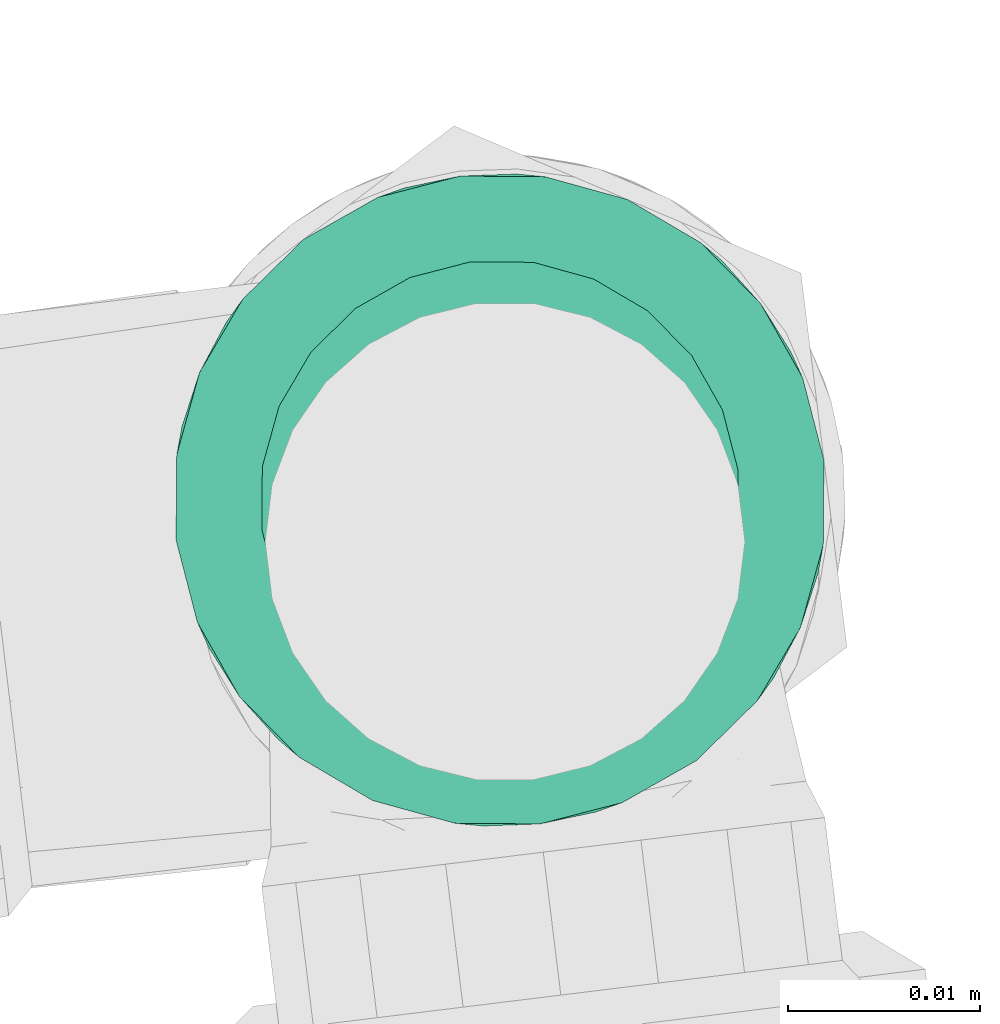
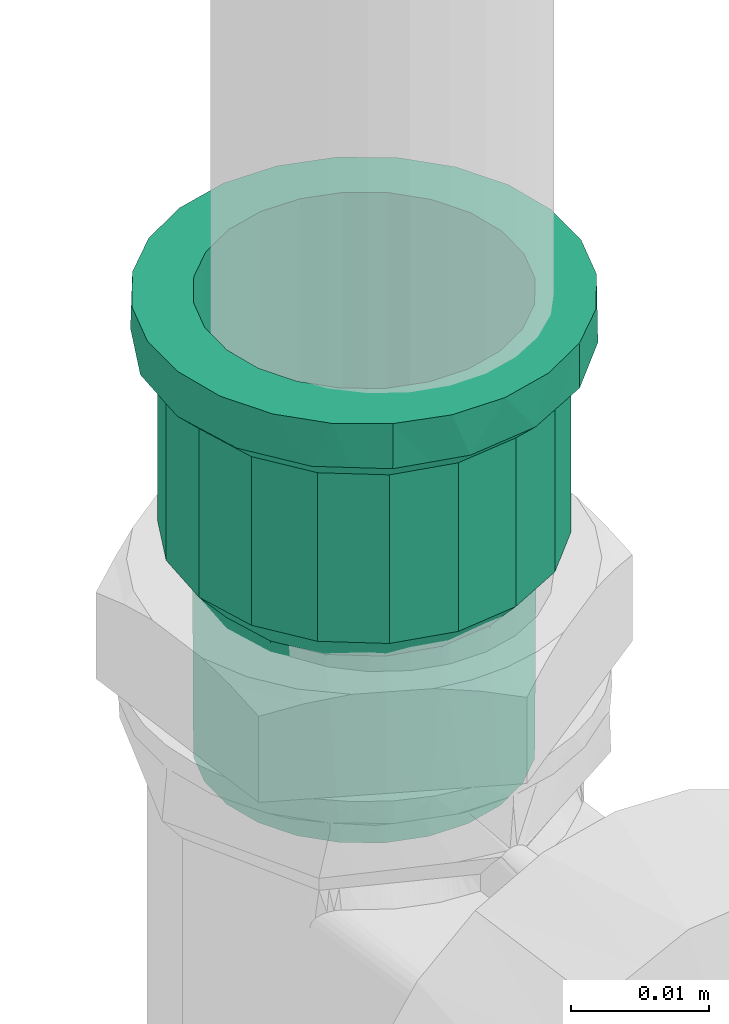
# One storey, part 77 of 97: 1 flow fitting.
"""IFC2X3 building model written with IfcOpenShell, lengths in centimetres."""

from ifc_helpers import new_model, entity, si_unit, converted_unit, derived_unit, direction, frame, origin, place, context, subcontext, project, spatial, faceted_brep, source, transform, mapped, material, type_object, type_shapes, element, save


model = new_model("IFC2X3")

# Units and contexts
model_context = context("Model", 3, precision=0.001, world=origin(), true_north=direction((6.12303176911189e-17, 1.0)))
body_context = subcontext(model_context, "Body", "Model", "MODEL_VIEW")
ifc_project = project(units=[si_unit("LENGTHUNIT", "METRE", prefix="CENTI"), si_unit("AREAUNIT", "SQUARE_METRE"), si_unit("VOLUMEUNIT", "CUBIC_METRE"), converted_unit("PLANEANGLEUNIT", "DEGREE", entity("IfcRatioMeasure", 0.0174532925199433), si_unit("PLANEANGLEUNIT", "RADIAN"), dimensions=[0, 0, 0, 0, 0, 0, 0]), si_unit("MASSUNIT", "GRAM", prefix="KILO"), derived_unit("MASSDENSITYUNIT", [(si_unit("MASSUNIT", "GRAM", prefix="KILO"), 1), (si_unit("LENGTHUNIT", "METRE"), -3)]), derived_unit("MOMENTOFINERTIAUNIT", [(si_unit("LENGTHUNIT", "METRE"), 4)]), si_unit("TIMEUNIT", "SECOND"), si_unit("FREQUENCYUNIT", "HERTZ"), si_unit("THERMODYNAMICTEMPERATUREUNIT", "DEGREE_CELSIUS"), derived_unit("THERMALTRANSMITTANCEUNIT", [(si_unit("MASSUNIT", "GRAM", prefix="KILO"), 1), (si_unit("THERMODYNAMICTEMPERATUREUNIT", "KELVIN"), -1), (si_unit("TIMEUNIT", "SECOND"), -3)]), derived_unit("VOLUMETRICFLOWRATEUNIT", [(si_unit("LENGTHUNIT", "METRE"), 3), (si_unit("TIMEUNIT", "SECOND"), -1)]), si_unit("ELECTRICCURRENTUNIT", "AMPERE"), si_unit("ELECTRICVOLTAGEUNIT", "VOLT"), si_unit("POWERUNIT", "WATT"), si_unit("FORCEUNIT", "NEWTON", prefix="KILO"), si_unit("ILLUMINANCEUNIT", "LUX"), si_unit("LUMINOUSFLUXUNIT", "LUMEN"), si_unit("LUMINOUSINTENSITYUNIT", "CANDELA"), derived_unit("USERDEFINED", [(si_unit("MASSUNIT", "GRAM", prefix="KILO"), -1), (si_unit("LENGTHUNIT", "METRE"), -2), (si_unit("TIMEUNIT", "SECOND"), 3), (si_unit("LUMINOUSFLUXUNIT", "LUMEN"), 1)]), derived_unit("LINEARVELOCITYUNIT", [(si_unit("LENGTHUNIT", "METRE"), 1), (si_unit("TIMEUNIT", "SECOND"), -1)]), si_unit("PRESSUREUNIT", "PASCAL"), derived_unit("USERDEFINED", [(si_unit("LENGTHUNIT", "METRE"), -2), (si_unit("MASSUNIT", "GRAM", prefix="KILO"), 1), (si_unit("TIMEUNIT", "SECOND"), -2)]), derived_unit("LINEARFORCEUNIT", [(si_unit("MASSUNIT", "GRAM", prefix="KILO"), 1), (si_unit("LENGTHUNIT", "METRE"), 1), (si_unit("TIMEUNIT", "SECOND"), -2), (si_unit("LENGTHUNIT", "METRE"), -1)]), derived_unit("PLANARFORCEUNIT", [(si_unit("MASSUNIT", "GRAM", prefix="KILO"), 1), (si_unit("LENGTHUNIT", "METRE"), 1), (si_unit("TIMEUNIT", "SECOND"), -2), (si_unit("LENGTHUNIT", "METRE"), -2)])], contexts=[model_context])

# Site, building, storey
site_placement = place(None, origin())
site = spatial("IfcSite", under=ifc_project, at=site_placement, Name="Default", CompositionType="ELEMENT")
building_placement = place(site_placement, origin())
building = spatial("IfcBuilding", under=site, at=building_placement, Name="HIDROSSANITÁRIO", CompositionType="ELEMENT")
storey_placement = place(building_placement, frame((0.0, 0.0, -260.0)))
storey = spatial("IfcBuildingStorey", under=building, at=storey_placement, Name="TÉRREO-HID", CompositionType="ELEMENT", Elevation=-260.0)

# Flow fitting
ifc_material = material(Name="PVC Marrom")
pipe_fitting_type = type_object("IfcPipeFittingType", Name="PVC Marrom Soldável_Adaptador Curto com Bolsa e Rosca Aninhado:Adaptador", PredefinedType="NOTDEFINED", material=ifc_material)
shared_shape = source(origin(), body_context, "Body", "Brep", [
    faceted_brep([(0.0, -0.850000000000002, -1.47224318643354), (0.0, -1.20208152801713, -1.20208152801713), (0.0, -0.624999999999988, -1.08253175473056), (0.0, -0.323523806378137, -1.20740728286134), (0.0, -0.439992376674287, -1.64207390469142), (0.0, -0.883883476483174, -0.883883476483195), (0.0, -1.47224318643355, -0.849999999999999), (0.0, -1.08253175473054, -0.625000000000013), (0.0, -1.20740728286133, -0.323523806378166), (0.0, -1.64207390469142, -0.439992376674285), (0.0, -1.25, 0.0), (0.0, -1.7, 0.0), (0.0, -1.20740728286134, 0.323523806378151), (0.0, -1.64207390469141, 0.439992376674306), (0.0, -1.08253175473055, 0.625), (0.0, -1.47224318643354, 0.850000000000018), (0.0, -0.883883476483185, 0.883883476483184), (0.0, -1.20208152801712, 1.20208152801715), (0.0, -0.625000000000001, 1.08253175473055), (0.0, -0.849999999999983, 1.47224318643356), (0.0, -0.323523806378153, 1.20740728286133), (0.0, -0.439992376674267, 1.64207390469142), (0.0, 0.0, 1.25), (0.0, 0.0, 1.7), (0.0, 0.323523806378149, 1.20740728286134), (0.0, 0.439992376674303, 1.64207390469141), (0.0, 0.624999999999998, 1.08253175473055), (0.0, 0.850000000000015, 1.47224318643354), (0.0, 0.883883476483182, 0.883883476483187), (0.0, 1.20208152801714, 1.20208152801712), (0.0, 1.08253175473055, 0.625000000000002), (0.0, 1.47224318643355, 0.849999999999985), (0.0, 1.64207390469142, 0.439992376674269), (0.0, 1.20740728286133, 0.323523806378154), (0.0, 1.7, 0.0), (0.0, 1.25, 0.0), (0.0, 1.64207390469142, -0.43999237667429), (0.0, 1.20740728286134, -0.323523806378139), (0.0, 1.47224318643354, -0.850000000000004), (0.0, 1.08253175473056, -0.624999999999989), (0.0, 1.20208152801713, -1.20208152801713), (0.0, 0.883883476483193, -0.883883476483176), (0.0, 0.849999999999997, -1.47224318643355), (0.0, 0.625000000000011, -1.08253175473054), (0.0, 0.439992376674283, -1.64207390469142), (0.0, 0.323523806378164, -1.20740728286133), (0.0, 0.0, -1.7), (0.0, 0.0, -1.25), (0.399999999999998, 1.59746124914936, 0.581478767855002), (0.399999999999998, 1.64873062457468, 0.290739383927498), (0.399999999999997, 1.07604576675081, 1.28256289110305), (0.399999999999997, 1.30221463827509, 1.09281152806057), (0.399999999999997, 1.44983794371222, 0.837145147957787), (0.399999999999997, 0.57244607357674, 1.57326016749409), (0.399999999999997, 0.295015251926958, 1.67420608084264), (0.399999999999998, 1.659968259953, 0.227012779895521), (0.399999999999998, 1.7, 0.0), (0.399999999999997, 0.849876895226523, 1.47231425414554), (0.399999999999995, -0.850246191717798, 1.47210102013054), (0.399999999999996, -0.572840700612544, 1.57311652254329), (0.399999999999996, -0.295435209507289, 1.67413202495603), (0.399999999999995, -1.30248872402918, 1.09248483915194), (0.399999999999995, -1.07636745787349, 1.28229292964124), (0.399999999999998, -1.7, 0.0), (0.399999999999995, -1.5976070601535, 0.581078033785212), (0.399999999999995, -1.45004789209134, 0.836781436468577), (0.399999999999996, -0.000209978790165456, 1.67416905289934), (0.400000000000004, -1.59760706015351, -0.581078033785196), (0.400000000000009, -1.0763674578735, -1.28229292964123), (0.400000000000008, -1.30248872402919, -1.09248483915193), (0.400000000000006, -1.45004789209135, -0.836781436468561), (0.40000000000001, -0.572840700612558, -1.57311652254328), (0.400000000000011, -0.295435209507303, -1.67413202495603), (0.40000000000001, -0.850246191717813, -1.47210102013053), (0.4, 1.64873062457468, -0.290739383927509), (0.400000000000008, 0.849876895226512, -1.47231425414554), (0.400000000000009, 0.572446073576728, -1.57326016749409), (0.40000000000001, 0.295015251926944, -1.67420608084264), (0.400000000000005, 1.30221463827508, -1.09281152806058), (0.400000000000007, 1.0760457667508, -1.28256289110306), (0.400000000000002, 1.59746124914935, -0.581478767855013), (0.400000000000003, 1.44983794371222, -0.837145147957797), (0.40000000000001, -0.000209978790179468, -1.67416905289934), (0.399999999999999, 1.65996825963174, -0.227012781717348), (2.085, 1.45359735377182, 0.29149513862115), (2.085, 1.45961152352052, 0.257389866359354), (2.085, 1.505, 0.0), (0.590000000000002, 1.505, 0.0), (0.590000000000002, 1.45961152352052, 0.257389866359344), (0.590000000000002, 1.41422304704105, 0.514779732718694), (2.085, 1.41422304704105, 0.514779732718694), (2.08499999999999, 0.952616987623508, 1.13544538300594), (2.08499999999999, 1.15284295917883, 0.967459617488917), (0.590000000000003, 1.15284295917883, 0.967459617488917), (0.590000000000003, 0.952616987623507, 1.13544538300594), (0.590000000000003, 0.752391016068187, 1.30343114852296), (2.08499999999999, 0.752391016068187, 1.30343114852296), (2.085, 1.28353300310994, 0.741119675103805), (0.590000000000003, 1.28353300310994, 0.741119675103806), (2.08499999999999, 0.261175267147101, 1.48216479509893), (2.08499999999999, 0.506783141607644, 1.39279797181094), (0.590000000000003, 0.506783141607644, 1.39279797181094), (0.590000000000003, 0.261175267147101, 1.48216479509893), (2.08499999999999, -0.261547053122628, 1.48209923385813), (2.08499999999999, -0.000185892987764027, 1.48213201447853), (0.590000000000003, -0.000185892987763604, 1.48213201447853), (0.590000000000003, -0.261547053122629, 1.48209923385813), (2.08499999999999, -0.507132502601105, 1.39267080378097), (0.590000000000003, -0.507132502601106, 1.39267080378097), (0.590000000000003, -0.752717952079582, 1.3032423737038), (2.08499999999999, -0.75271795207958, 1.3032423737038), (0.590000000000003, -0.952901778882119, 1.1352063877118), (0.590000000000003, -1.15308560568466, 0.967170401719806), (2.08499999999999, -1.15308560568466, 0.967170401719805), (2.08499999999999, -0.952901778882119, 1.1352063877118), (2.085, -1.28371886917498, 0.740797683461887), (0.590000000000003, -1.28371886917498, 0.740797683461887), (0.590000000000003, -1.4143521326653, 0.514424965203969), (2.085, -1.4143521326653, 0.514424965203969), (0.590000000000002, -1.505, 0.0), (2.085, -1.505, 0.0), (2.08500000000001, -1.41435213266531, -0.514424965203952), (0.590000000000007, -1.41435213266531, -0.514424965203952), (2.08500000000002, -0.752717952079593, -1.3032423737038), (2.08500000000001, -0.95290177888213, -1.13520638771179), (2.08500000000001, -1.15308560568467, -0.967170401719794), (0.59000000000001, -1.15308560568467, -0.967170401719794), (0.590000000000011, -0.95290177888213, -1.13520638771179), (0.590000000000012, -0.752717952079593, -1.3032423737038), (0.590000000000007, 1.28353300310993, -0.741119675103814), (0.590000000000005, 1.41422304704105, -0.514779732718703), (2.08500000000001, 1.41422304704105, -0.514779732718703), (2.08500000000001, 1.28353300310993, -0.741119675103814), (2.08500000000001, 1.15284295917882, -0.967459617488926), (0.590000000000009, 1.15284295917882, -0.967459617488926), (0.590000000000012, 0.506783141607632, -1.39279797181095), (0.590000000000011, 0.752391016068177, -1.30343114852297), (2.08500000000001, 0.752391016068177, -1.30343114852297), (2.08500000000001, 0.506783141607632, -1.39279797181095), (2.08500000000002, 0.261175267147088, -1.48216479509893), (0.590000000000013, 0.261175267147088, -1.48216479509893), (2.08500000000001, -1.28371886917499, -0.740797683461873), (0.590000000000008, -1.28371886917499, -0.740797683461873), (2.08500000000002, -0.261547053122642, -1.48209923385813), (2.08500000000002, -0.507132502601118, -1.39267080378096), (0.590000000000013, -0.507132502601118, -1.39267080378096), (0.590000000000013, -0.261547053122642, -1.48209923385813), (0.590000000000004, 1.45961152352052, -0.257389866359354), (2.085, 1.46677519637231, -0.216765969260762), (2.085, 1.45359734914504, -0.291495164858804), (0.59000000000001, 0.952616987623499, -1.13544538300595), (2.08500000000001, 0.952616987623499, -1.13544538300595), (2.08500000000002, -0.000185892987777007, -1.48213201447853), (0.590000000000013, -0.000185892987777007, -1.48213201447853), (4.03, 0.0, -1.25), (4.03, 0.323523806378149, -1.20740728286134), (4.03, 0.624999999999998, -1.08253175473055), (4.03, 0.883883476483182, -0.883883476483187), (4.03, 1.08253175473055, -0.625000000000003), (4.03, 1.20740728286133, -0.323523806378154), (4.03, 1.25, 0.0), (4.03, 1.20740728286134, 0.323523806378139), (4.03, 1.08253175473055, 0.624999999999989), (4.03, 0.883883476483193, 0.883883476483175), (4.03, 0.625000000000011, 1.08253175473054), (4.03, 0.323523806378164, 1.20740728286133), (4.03, 0.0, 1.25), (4.03, -0.323523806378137, 1.20740728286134), (4.03, -0.624999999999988, 1.08253175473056), (4.03, -0.883883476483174, 0.883883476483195), (4.03, -1.08253175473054, 0.625000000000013), (4.03, -1.20740728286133, 0.323523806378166), (4.03, -1.25, 0.0), (4.03, -1.20740728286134, -0.323523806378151), (4.03, -1.08253175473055, -0.624999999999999), (4.03, -0.883883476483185, -0.883883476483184), (4.03, -0.625000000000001, -1.08253175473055), (4.03, -0.323523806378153, -1.20740728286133), (2.375, 1.25, 0.0), (2.37499999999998, 0.957510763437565, 0.803537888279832), (2.37499999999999, 1.17460385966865, 0.427557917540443), (2.37499999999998, 0.624909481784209, 1.08258401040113), (2.37499999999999, 1.06605731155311, 0.615547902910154), (2.375, 1.21825182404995, 0.180038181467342), (2.37499999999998, 0.420916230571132, 1.15680894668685), (2.37499999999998, 0.216922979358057, 1.23103388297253), (2.37499999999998, 0.791210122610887, 0.943060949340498), (2.37499999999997, -0.217231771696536, 1.23097943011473), (2.37499999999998, -0.625181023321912, 1.08242722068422), (2.37499999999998, -0.957712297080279, 0.803297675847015), (2.37499999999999, -1.17471107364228, 0.427263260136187), (2.37499999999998, -0.791446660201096, 0.94286244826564), (2.37499999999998, -0.421206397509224, 1.1567033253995), (2.375, -1.25, 0.0), (2.37499999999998, -1.06621168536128, 0.615280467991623), (2.37499999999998, -0.000154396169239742, 1.23100665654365), (2.37500000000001, -0.957712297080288, -0.803297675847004), (2.375, -1.17471107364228, -0.427263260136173), (2.37500000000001, -0.625181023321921, -1.08242722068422), (2.37500000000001, -1.06621168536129, -0.615280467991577), (2.37500000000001, -0.421206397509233, -1.15670332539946), (2.37500000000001, -0.217231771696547, -1.23097943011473), (2.37500000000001, -0.791446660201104, -0.942862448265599), (2.37500000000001, 0.216922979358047, -1.23103388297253), (2.37500000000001, 0.6249094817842, -1.08258401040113), (2.375, 0.957510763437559, -0.803537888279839), (2.375, 1.17460385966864, -0.427557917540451), (2.37500000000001, 0.79121012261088, -0.943060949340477), (2.37500000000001, 0.420916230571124, -1.15680894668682), (2.375, 1.21230192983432, -0.213778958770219), (2.375, 1.0660573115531, -0.615547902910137), (2.37500000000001, -0.00015439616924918, -1.23100665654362), (0.590000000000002, 1.20740728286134, -0.323523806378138), (2.085, 1.20740728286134, -0.323523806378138), (2.085, 1.25, 0.0), (0.590000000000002, 1.25, 0.0), (0.399999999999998, 1.25, 0.0), (0.399999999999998, 1.20740728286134, -0.323523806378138), (0.590000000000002, 1.08253175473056, -0.624999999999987), (2.085, 1.08253175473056, -0.624999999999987), (0.399999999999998, 1.08253175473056, -0.624999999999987), (2.085, 0.625000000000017, -1.08253175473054), (2.085, 0.883883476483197, -0.883883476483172), (0.590000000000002, 0.883883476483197, -0.883883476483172), (0.399999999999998, 0.883883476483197, -0.883883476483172), (0.399999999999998, 0.625000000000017, -1.08253175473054), (0.590000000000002, 0.625000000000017, -1.08253175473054), (2.085, 0.32352380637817, -1.20740728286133), (0.399999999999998, 0.32352380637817, -1.20740728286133), (0.590000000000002, 0.32352380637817, -1.20740728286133), (2.085, 0.0, -1.25), (0.399999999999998, 0.0, -1.25), (0.590000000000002, 0.0, -1.25), (0.590000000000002, -0.323523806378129, -1.20740728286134), (2.085, -0.323523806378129, -1.20740728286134), (0.399999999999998, -0.323523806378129, -1.20740728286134), (0.590000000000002, -0.624999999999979, -1.08253175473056), (2.085, -0.624999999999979, -1.08253175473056), (0.399999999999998, -0.624999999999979, -1.08253175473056), (2.085, -1.08253175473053, -0.625000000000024), (2.085, -0.883883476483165, -0.883883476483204), (0.590000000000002, -0.883883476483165, -0.883883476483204), (0.399999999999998, -0.883883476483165, -0.883883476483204), (0.399999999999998, -1.08253175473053, -0.625000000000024), (0.590000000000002, -1.08253175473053, -0.625000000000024), (2.085, -1.20740728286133, -0.323523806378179), (0.399999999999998, -1.20740728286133, -0.323523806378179), (0.590000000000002, -1.20740728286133, -0.323523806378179), (2.085, -1.25, 0.0), (0.399999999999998, -1.25, 0.0), (0.590000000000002, -1.25, 0.0), (0.590000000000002, -1.20740728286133, 0.323523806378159), (2.085, -1.20740728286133, 0.323523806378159), (0.399999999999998, -1.20740728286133, 0.323523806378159), (0.590000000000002, -1.08253175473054, 0.625000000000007), (2.085, -1.08253175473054, 0.625000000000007), (0.399999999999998, -1.08253175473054, 0.625000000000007), (2.085, -0.624999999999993, 1.08253175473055), (2.085, -0.883883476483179, 0.88388347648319), (0.590000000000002, -0.883883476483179, 0.88388347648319), (0.399999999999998, -0.883883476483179, 0.88388347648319), (0.399999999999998, -0.624999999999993, 1.08253175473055), (0.590000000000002, -0.624999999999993, 1.08253175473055), (2.085, -0.323523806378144, 1.20740728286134), (0.399999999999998, -0.323523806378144, 1.20740728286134), (0.590000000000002, -0.323523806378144, 1.20740728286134), (2.085, 0.0, 1.25), (0.399999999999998, 0.0, 1.25), (0.590000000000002, 0.0, 1.25), (0.590000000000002, 0.323523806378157, 1.20740728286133), (2.085, 0.323523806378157, 1.20740728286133), (0.399999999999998, 0.323523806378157, 1.20740728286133), (0.590000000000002, 0.625000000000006, 1.08253175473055), (2.085, 0.625000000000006, 1.08253175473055), (0.399999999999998, 0.625000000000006, 1.08253175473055), (2.085, 1.08253175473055, 0.624999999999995), (2.085, 0.883883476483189, 0.88388347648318), (0.590000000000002, 0.883883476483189, 0.88388347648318), (0.399999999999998, 0.883883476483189, 0.88388347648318), (0.399999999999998, 1.08253175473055, 0.624999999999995), (0.590000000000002, 1.08253175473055, 0.624999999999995), (2.085, 1.20740728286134, 0.323523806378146), (0.399999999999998, 1.20740728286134, 0.323523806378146), (0.590000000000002, 1.20740728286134, 0.323523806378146)], [[[0, 1, 2]], [[0, 2, 3]], [[3, 4, 0]], [[2, 1, 5]], [[6, 5, 1]], [[7, 5, 6]], [[8, 7, 6]], [[8, 6, 9]], [[8, 9, 10]], [[10, 9, 11]], [[12, 10, 11]], [[12, 11, 13]], [[14, 12, 13]], [[14, 13, 15]], [[16, 14, 15]], [[15, 17, 16]], [[17, 18, 16]], [[18, 17, 19]], [[18, 19, 20]], [[21, 20, 19]], [[20, 21, 22]], [[22, 21, 23]], [[23, 24, 22]], [[24, 23, 25]], [[24, 25, 26]], [[27, 26, 25]], [[27, 28, 26]], [[27, 29, 28]], [[30, 28, 29]], [[31, 30, 29]], [[32, 30, 31]], [[33, 30, 32]], [[33, 32, 34]], [[34, 35, 33]], [[36, 35, 34]], [[36, 37, 35]], [[37, 36, 38]], [[39, 37, 38]], [[39, 38, 40]], [[39, 40, 41]], [[40, 42, 41]], [[41, 42, 43]], [[43, 42, 44]], [[44, 45, 43]], [[46, 45, 44]], [[4, 47, 46]], [[45, 46, 47]], [[4, 3, 47]], [[32, 48, 49]], [[50, 51, 29]], [[52, 48, 31, 51]], [[53, 25, 54]], [[48, 32, 31]], [[34, 49, 55, 56]], [[27, 57, 50]], [[29, 27, 50]], [[29, 51, 31]], [[19, 58, 59]], [[21, 19, 59]], [[53, 57, 27]], [[25, 53, 27]], [[54, 25, 23]], [[32, 49, 34]], [[59, 60, 21]], [[61, 62, 17]], [[63, 64, 13]], [[65, 61, 15, 64]], [[11, 63, 13]], [[17, 62, 19]], [[66, 54, 23, 60]], [[21, 60, 23]], [[61, 17, 15]], [[19, 62, 58]], [[13, 64, 15]], [[67, 63, 9]], [[68, 69, 1]], [[70, 67, 6, 69]], [[71, 4, 72]], [[67, 9, 6]], [[63, 11, 9]], [[4, 71, 0]], [[0, 73, 68]], [[1, 69, 6]], [[36, 34, 74]], [[42, 75, 76]], [[71, 73, 0]], [[44, 42, 76]], [[72, 4, 46]], [[1, 0, 68]], [[76, 77, 44]], [[78, 79, 40]], [[74, 80, 36]], [[81, 78, 38, 80]], [[36, 80, 38]], [[40, 79, 42]], [[82, 72, 46, 77]], [[44, 77, 46]], [[78, 40, 38]], [[42, 79, 75]], [[34, 56, 83, 74]], [[84, 85, 86, 87, 88, 89, 90]], [[91, 92, 93, 94, 95, 96]], [[92, 97, 90, 89, 98, 93]], [[99, 100, 96, 95, 101, 102]], [[103, 104, 99, 102, 105, 106]], [[107, 103, 106, 108, 109, 110]], [[111, 112, 113, 114, 110, 109]], [[115, 113, 112, 116, 117, 118]], [[117, 119, 120, 118]], [[121, 120, 119, 122]], [[123, 124, 125, 126, 127, 128]], [[129, 130, 131, 132, 133, 134]], [[135, 136, 137, 138, 139, 140]], [[125, 141, 121, 122, 142, 126]], [[143, 144, 123, 128, 145, 146]], [[131, 130, 147, 87, 86, 148, 149]], [[150, 134, 133, 151, 137, 136]], [[139, 152, 143, 146, 153, 140]], [[154, 155, 156, 157, 158, 159, 160, 161, 162, 163, 164, 165, 166, 167, 168, 169, 170, 171, 172, 173, 174, 175, 176, 177]], [[161, 160, 178]], [[163, 162, 179]], [[180, 162, 161]], [[181, 164, 163]], [[162, 180, 182, 179]], [[161, 178, 183, 180]], [[165, 181, 184, 185]], [[163, 179, 186, 181]], [[166, 165, 185]], [[165, 164, 181]], [[166, 187, 167]], [[167, 188, 168]], [[170, 169, 189]], [[188, 169, 168]], [[171, 170, 190]], [[169, 188, 191, 189]], [[167, 187, 192, 188]], [[190, 193, 171]], [[170, 189, 194, 190]], [[193, 172, 171]], [[166, 185, 195, 187]], [[173, 172, 193]], [[175, 174, 196]], [[197, 174, 173]], [[198, 176, 175]], [[174, 197, 199, 196]], [[173, 193, 197]], [[177, 198, 200, 201]], [[175, 196, 202, 198]], [[154, 177, 201]], [[177, 176, 198]], [[154, 203, 155]], [[155, 204, 156]], [[158, 157, 205]], [[204, 157, 156]], [[159, 158, 206]], [[157, 204, 207, 205]], [[155, 203, 208, 204]], [[159, 206, 209, 178]], [[158, 205, 210, 206]], [[178, 160, 159]], [[154, 201, 211, 203]], [[212, 213, 214, 215, 216, 35, 37, 217]], [[218, 219, 213, 212, 217, 37, 39, 220]], [[221, 222, 223, 224, 41, 43, 225, 226]], [[218, 220, 39, 41, 224, 223, 222, 219]], [[227, 221, 226, 225, 43, 45, 228, 229]], [[230, 227, 229, 228, 45, 47, 231, 232]], [[233, 234, 230, 232, 231, 47, 3, 235]], [[236, 237, 234, 233, 235, 3, 2, 238]], [[239, 240, 241, 242, 5, 7, 243, 244]], [[236, 238, 2, 5, 242, 241, 240, 237]], [[245, 239, 244, 243, 7, 8, 246, 247]], [[248, 245, 247, 246, 8, 10, 249, 250]], [[251, 252, 248, 250, 249, 10, 12, 253]], [[254, 255, 252, 251, 253, 12, 14, 256]], [[257, 258, 259, 260, 16, 18, 261, 262]], [[254, 256, 14, 16, 260, 259, 258, 255]], [[263, 257, 262, 261, 18, 20, 264, 265]], [[266, 263, 265, 264, 20, 22, 267, 268]], [[269, 270, 266, 268, 267, 22, 24, 271]], [[272, 273, 270, 269, 271, 24, 26, 274]], [[275, 276, 277, 278, 28, 30, 279, 280]], [[272, 274, 26, 28, 278, 277, 276, 273]], [[281, 275, 280, 279, 30, 33, 282, 283]], [[214, 281, 283, 282, 33, 35, 216, 215]], [[63, 67, 122, 119]], [[145, 128, 73, 71, 72, 146]], [[68, 73, 128, 127, 126, 69]], [[126, 142, 122, 67, 70, 69]], [[76, 75, 136, 135, 140, 77]], [[81, 80, 130, 129, 134, 78]], [[147, 130, 80, 74, 83, 56, 87]], [[140, 153, 146, 72, 82, 77]], [[134, 150, 136, 75, 79, 78]], [[89, 88, 87, 56, 55, 49, 48]], [[98, 89, 48, 52, 51, 93]], [[94, 93, 51, 50, 57, 95]], [[57, 53, 54, 102, 101, 95]], [[66, 60, 106, 105, 102, 54]], [[58, 109, 108, 106, 60, 59]], [[63, 119, 117, 64]], [[61, 65, 64, 117, 116, 112]], [[58, 62, 61, 112, 111, 109]], [[227, 230, 234, 237, 240, 239, 245, 248, 252, 255, 258, 257, 263, 266, 270, 273, 276, 275, 281, 214, 213, 219, 222, 221]], [[180, 183, 178, 86, 85, 84, 90]], [[100, 99, 185, 184, 181, 96]], [[181, 186, 179, 92, 91, 96]], [[179, 182, 180, 90, 97, 92]], [[104, 103, 187, 195, 185, 99]], [[115, 118, 190, 194, 189, 113]], [[107, 110, 188, 192, 187, 103]], [[118, 120, 193, 190]], [[189, 191, 188, 110, 114, 113]], [[120, 121, 197, 193]], [[200, 198, 123, 144, 143, 201]], [[124, 123, 198, 202, 196, 125]], [[196, 199, 197, 121, 141, 125]], [[138, 137, 204, 208, 203, 139]], [[132, 131, 206, 210, 205, 133]], [[209, 206, 131, 149, 148, 86, 178]], [[203, 211, 201, 143, 152, 139]], [[205, 207, 204, 137, 151, 133]]]),
])
type_shapes(pipe_fitting_type, [shared_shape])
flow_fitting_placement = place(storey_placement, frame((-1478.54642071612, 2914.31689094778, 185.475), z_axis=(0.122152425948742, -0.992511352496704, 0.0), x_axis=(0.0, 0.0, -1.0)))
element("IfcFlowFitting", 1, at=flow_fitting_placement, inside=storey, type_object=pipe_fitting_type, material=ifc_material, Name="PVC Marrom Soldável_Adaptador Curto com Bolsa e Rosca Aninhado:Adaptador", ObjectType="PVC Marrom Soldável_Adaptador Curto com Bolsa e Rosca Aninhado:Adaptador", context=body_context, shape_type="MappedRepresentation", body=[
    mapped(shared_shape, transform((0.0, 0.0, 0.0), scale=1.0)),
])

save(model, "model.ifc")
